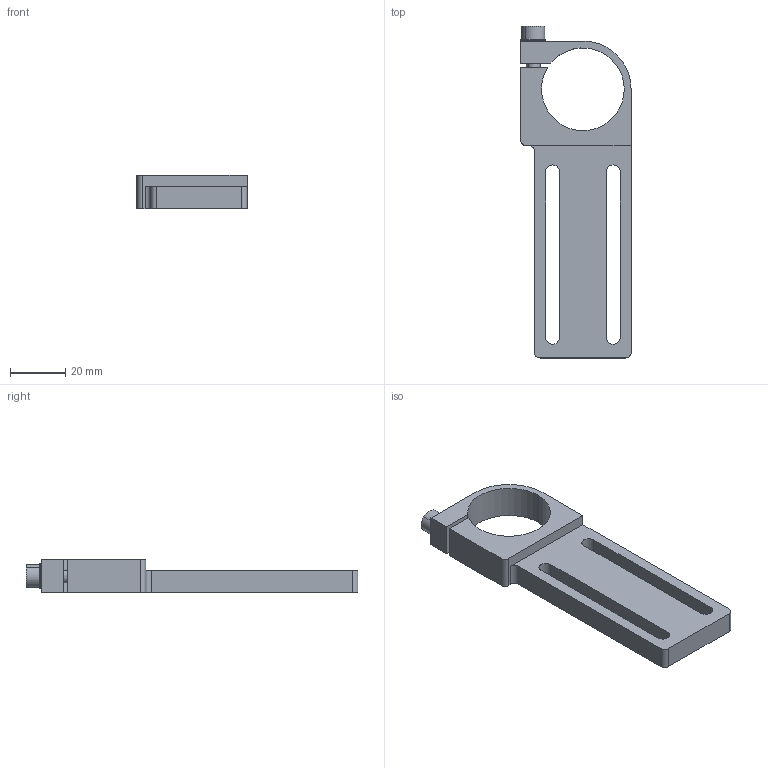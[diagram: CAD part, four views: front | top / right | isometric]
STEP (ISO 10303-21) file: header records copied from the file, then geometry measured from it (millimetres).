
FILE_DESCRIPTION (( 'STEP AP203' ), '1' );
FILE_NAME ('SMBE1-3060.STEP', '2024-08-13T06:13:58', ( '' ), ( '' ), 'SwSTEP 2.0', 'SolidWorks 2022', '' );
FILE_SCHEMA (( 'CONFIG_CONTROL_DESIGN' ));
Length unit declared in the file: millimetre
Products named in the file (5): SMBE1-3060; SMBE1-3060.STEP; PTS-M5.STEP; PTC-M5L14.STEP; SMBE1-3060-T.STEP
Assembly tree (4 placements, depth 3):
  SMBE1-3060
    SMBE1-3060-T.STEP
      SMBE1-3060.STEP
      PTC-M5L14.STEP
      PTS-M5.STEP
Bounding box: 40 x 120.45 x 12 mm (x, y, z)
Volume: 25188.4 mm3; surface area: 12992.1 mm2
Topology: 3 solids, 3 shells, 217 faces, 624 edges, 414 vertices
Faces by surface type: plane 187, cylinder 24, cone 6
Entity records: 7707 total; most frequent: DIRECTION 1288, CARTESIAN_POINT 1263, ORIENTED_EDGE 1248, EDGE_CURVE 624, AXIS2_PLACEMENT_3D 439, VERTEX_POINT 414, LINE 410, VECTOR 410
